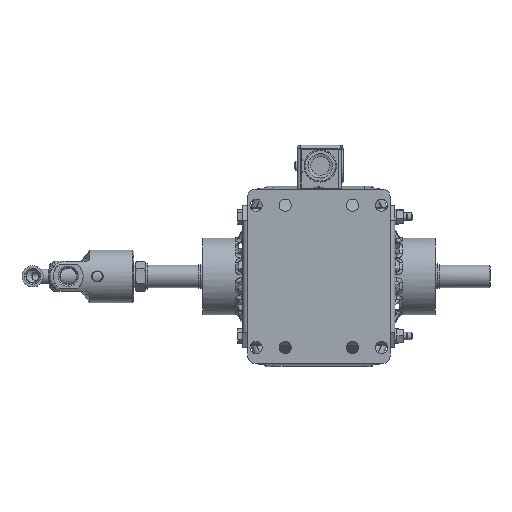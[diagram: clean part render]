
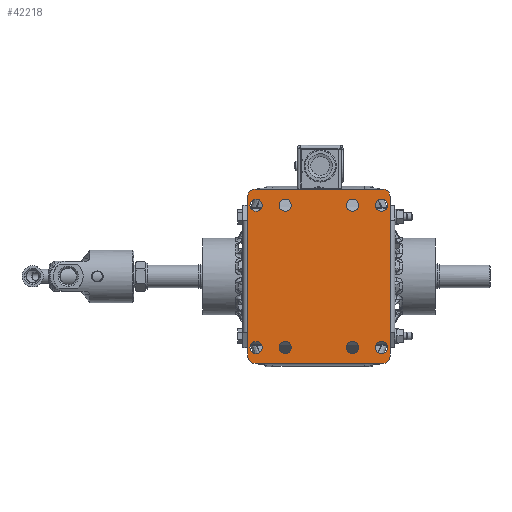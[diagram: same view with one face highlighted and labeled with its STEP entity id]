
A CAD part, left-side view. The second image highlights one B-rep face of the part: STEP entity #42218.
In plain terms, the highlighted planar face has unit normal (-1, 0, 0).
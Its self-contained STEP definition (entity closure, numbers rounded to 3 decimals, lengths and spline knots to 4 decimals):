
#1695=FACE_BOUND('',#6689,.T.);
#1696=FACE_BOUND('',#6690,.T.);
#1697=FACE_BOUND('',#6691,.T.);
#1698=FACE_BOUND('',#6692,.T.);
#1699=FACE_BOUND('',#6693,.T.);
#1700=FACE_BOUND('',#6694,.T.);
#1701=FACE_BOUND('',#6695,.T.);
#1702=FACE_BOUND('',#6696,.T.);
#2144=PLANE('',#45872);
#3834=FACE_OUTER_BOUND('',#6688,.T.);
#6688=EDGE_LOOP('',(#33102,#33103,#33104,#33105,#33106,#33107,#33108,#33109,
#33110,#33111,#33112,#33113));
#6689=EDGE_LOOP('',(#33114));
#6690=EDGE_LOOP('',(#33115));
#6691=EDGE_LOOP('',(#33116));
#6692=EDGE_LOOP('',(#33117));
#6693=EDGE_LOOP('',(#33118));
#6694=EDGE_LOOP('',(#33119));
#6695=EDGE_LOOP('',(#33120));
#6696=EDGE_LOOP('',(#33121));
#11334=CIRCLE('',#45834,0.2031);
#11336=CIRCLE('',#45837,0.2031);
#11338=CIRCLE('',#45840,0.2031);
#11340=CIRCLE('',#45843,0.2031);
#11342=CIRCLE('',#45846,0.2031);
#11344=CIRCLE('',#45849,0.2031);
#11346=CIRCLE('',#45852,0.2031);
#11348=CIRCLE('',#45855,0.2031);
#11361=CIRCLE('',#45873,0.25);
#11362=CIRCLE('',#45874,0.25);
#11363=CIRCLE('',#45875,0.25);
#11364=CIRCLE('',#45876,0.25);
#13859=LINE('',#93535,#15661);
#13860=LINE('',#93537,#15662);
#13861=LINE('',#93539,#15663);
#13862=LINE('',#93543,#15664);
#13863=LINE('',#93547,#15665);
#13864=LINE('',#93549,#15666);
#13865=LINE('',#93551,#15667);
#13866=LINE('',#93555,#15668);
#15661=VECTOR('',#53699,39.3701);
#15662=VECTOR('',#53700,39.3701);
#15663=VECTOR('',#53701,39.3701);
#15664=VECTOR('',#53704,39.3701);
#15665=VECTOR('',#53707,39.3701);
#15666=VECTOR('',#53708,39.3701);
#15667=VECTOR('',#53709,39.3701);
#15668=VECTOR('',#53712,39.3701);
#18327=VERTEX_POINT('',#93449);
#18329=VERTEX_POINT('',#93455);
#18331=VERTEX_POINT('',#93461);
#18333=VERTEX_POINT('',#93467);
#18335=VERTEX_POINT('',#93473);
#18337=VERTEX_POINT('',#93479);
#18339=VERTEX_POINT('',#93485);
#18341=VERTEX_POINT('',#93491);
#18355=VERTEX_POINT('',#93533);
#18356=VERTEX_POINT('',#93534);
#18357=VERTEX_POINT('',#93536);
#18358=VERTEX_POINT('',#93538);
#18359=VERTEX_POINT('',#93540);
#18360=VERTEX_POINT('',#93542);
#18361=VERTEX_POINT('',#93544);
#18362=VERTEX_POINT('',#93546);
#18363=VERTEX_POINT('',#93548);
#18364=VERTEX_POINT('',#93550);
#18365=VERTEX_POINT('',#93552);
#18366=VERTEX_POINT('',#93554);
#23468=EDGE_CURVE('',#18327,#18327,#11334,.T.);
#23471=EDGE_CURVE('',#18329,#18329,#11336,.T.);
#23474=EDGE_CURVE('',#18331,#18331,#11338,.T.);
#23477=EDGE_CURVE('',#18333,#18333,#11340,.T.);
#23480=EDGE_CURVE('',#18335,#18335,#11342,.T.);
#23483=EDGE_CURVE('',#18337,#18337,#11344,.T.);
#23486=EDGE_CURVE('',#18339,#18339,#11346,.T.);
#23489=EDGE_CURVE('',#18341,#18341,#11348,.T.);
#23512=EDGE_CURVE('',#18355,#18356,#13859,.T.);
#23513=EDGE_CURVE('',#18355,#18357,#13860,.T.);
#23514=EDGE_CURVE('',#18358,#18357,#13861,.T.);
#23515=EDGE_CURVE('',#18358,#18359,#11361,.T.);
#23516=EDGE_CURVE('',#18360,#18359,#13862,.T.);
#23517=EDGE_CURVE('',#18360,#18361,#11362,.T.);
#23518=EDGE_CURVE('',#18362,#18361,#13863,.T.);
#23519=EDGE_CURVE('',#18362,#18363,#13864,.T.);
#23520=EDGE_CURVE('',#18364,#18363,#13865,.T.);
#23521=EDGE_CURVE('',#18364,#18365,#11363,.T.);
#23522=EDGE_CURVE('',#18366,#18365,#13866,.T.);
#23523=EDGE_CURVE('',#18366,#18356,#11364,.T.);
#33102=ORIENTED_EDGE('',*,*,#23512,.F.);
#33103=ORIENTED_EDGE('',*,*,#23513,.T.);
#33104=ORIENTED_EDGE('',*,*,#23514,.F.);
#33105=ORIENTED_EDGE('',*,*,#23515,.T.);
#33106=ORIENTED_EDGE('',*,*,#23516,.F.);
#33107=ORIENTED_EDGE('',*,*,#23517,.T.);
#33108=ORIENTED_EDGE('',*,*,#23518,.F.);
#33109=ORIENTED_EDGE('',*,*,#23519,.T.);
#33110=ORIENTED_EDGE('',*,*,#23520,.F.);
#33111=ORIENTED_EDGE('',*,*,#23521,.T.);
#33112=ORIENTED_EDGE('',*,*,#23522,.F.);
#33113=ORIENTED_EDGE('',*,*,#23523,.T.);
#33114=ORIENTED_EDGE('',*,*,#23489,.T.);
#33115=ORIENTED_EDGE('',*,*,#23486,.T.);
#33116=ORIENTED_EDGE('',*,*,#23483,.T.);
#33117=ORIENTED_EDGE('',*,*,#23480,.T.);
#33118=ORIENTED_EDGE('',*,*,#23468,.T.);
#33119=ORIENTED_EDGE('',*,*,#23471,.T.);
#33120=ORIENTED_EDGE('',*,*,#23474,.T.);
#33121=ORIENTED_EDGE('',*,*,#23477,.T.);
#42218=ADVANCED_FACE('',(#3834,#1695,#1696,#1697,#1698,#1699,#1700,#1701,
#1702),#2144,.T.);
#45834=AXIS2_PLACEMENT_3D('',#93450,#53604,#53605);
#45837=AXIS2_PLACEMENT_3D('',#93456,#53611,#53612);
#45840=AXIS2_PLACEMENT_3D('',#93462,#53618,#53619);
#45843=AXIS2_PLACEMENT_3D('',#93468,#53625,#53626);
#45846=AXIS2_PLACEMENT_3D('',#93474,#53632,#53633);
#45849=AXIS2_PLACEMENT_3D('',#93480,#53639,#53640);
#45852=AXIS2_PLACEMENT_3D('',#93486,#53646,#53647);
#45855=AXIS2_PLACEMENT_3D('',#93492,#53653,#53654);
#45872=AXIS2_PLACEMENT_3D('',#93532,#53697,#53698);
#45873=AXIS2_PLACEMENT_3D('',#93541,#53702,#53703);
#45874=AXIS2_PLACEMENT_3D('',#93545,#53705,#53706);
#45875=AXIS2_PLACEMENT_3D('',#93553,#53710,#53711);
#45876=AXIS2_PLACEMENT_3D('',#93556,#53713,#53714);
#53604=DIRECTION('center_axis',(1.,0.,0.));
#53605=DIRECTION('ref_axis',(0.,-1.,0.));
#53611=DIRECTION('center_axis',(1.,0.,0.));
#53612=DIRECTION('ref_axis',(0.,-1.,0.));
#53618=DIRECTION('center_axis',(1.,0.,0.));
#53619=DIRECTION('ref_axis',(0.,-1.,0.));
#53625=DIRECTION('center_axis',(1.,0.,0.));
#53626=DIRECTION('ref_axis',(0.,-1.,0.));
#53632=DIRECTION('center_axis',(1.,0.,0.));
#53633=DIRECTION('ref_axis',(0.,-1.,0.));
#53639=DIRECTION('center_axis',(1.,0.,0.));
#53640=DIRECTION('ref_axis',(0.,-1.,0.));
#53646=DIRECTION('center_axis',(1.,0.,0.));
#53647=DIRECTION('ref_axis',(0.,-1.,0.));
#53653=DIRECTION('center_axis',(1.,0.,0.));
#53654=DIRECTION('ref_axis',(0.,-1.,0.));
#53697=DIRECTION('center_axis',(-1.,0.,0.));
#53698=DIRECTION('ref_axis',(0.,1.,0.));
#53699=DIRECTION('',(0.,0.,1.));
#53700=DIRECTION('',(0.,0.,-1.));
#53701=DIRECTION('',(0.,0.,1.));
#53702=DIRECTION('center_axis',(-1.,0.,0.));
#53703=DIRECTION('ref_axis',(0.,1.,0.));
#53704=DIRECTION('',(0.,1.,0.));
#53705=DIRECTION('center_axis',(-1.,0.,0.));
#53706=DIRECTION('ref_axis',(0.,1.,0.));
#53707=DIRECTION('',(0.,0.,-1.));
#53708=DIRECTION('',(0.,0.,1.));
#53709=DIRECTION('',(0.,0.,-1.));
#53710=DIRECTION('center_axis',(-1.,0.,0.));
#53711=DIRECTION('ref_axis',(0.,1.,0.));
#53712=DIRECTION('',(0.,-1.,0.));
#53713=DIRECTION('center_axis',(-1.,0.,0.));
#53714=DIRECTION('ref_axis',(0.,1.,0.));
#93449=CARTESIAN_POINT('',(-3.289,2.2732,2.3421));
#93450=CARTESIAN_POINT('Origin',(-3.289,2.0701,2.3421));
#93455=CARTESIAN_POINT('',(-3.289,1.3044,2.3421));
#93456=CARTESIAN_POINT('Origin',(-3.289,1.1013,2.3421));
#93461=CARTESIAN_POINT('',(-3.289,-0.9456,2.3421));
#93462=CARTESIAN_POINT('Origin',(-3.289,-1.1487,2.3421));
#93467=CARTESIAN_POINT('',(-3.289,-1.9143,2.3421));
#93468=CARTESIAN_POINT('Origin',(-3.289,-2.1174,2.3421));
#93473=CARTESIAN_POINT('',(-3.289,-1.9143,-2.4079));
#93474=CARTESIAN_POINT('Origin',(-3.289,-2.1174,-2.4079));
#93479=CARTESIAN_POINT('',(-3.289,-0.9456,-2.4079));
#93480=CARTESIAN_POINT('Origin',(-3.289,-1.1487,-2.4079));
#93485=CARTESIAN_POINT('',(-3.289,1.3044,-2.4079));
#93486=CARTESIAN_POINT('Origin',(-3.289,1.1013,-2.4079));
#93491=CARTESIAN_POINT('',(-3.289,2.2732,-2.4079));
#93492=CARTESIAN_POINT('Origin',(-3.289,2.0701,-2.4079));
#93532=CARTESIAN_POINT('Origin',(-3.289,-0.0237,-0.0329));
#93533=CARTESIAN_POINT('',(-3.289,2.3513,1.8421));
#93534=CARTESIAN_POINT('',(-3.289,2.3513,2.6233));
#93535=CARTESIAN_POINT('',(-3.289,2.3513,2.8733));
#93536=CARTESIAN_POINT('',(-3.289,2.3513,-1.9079));
#93537=CARTESIAN_POINT('',(-3.289,2.3513,-0.0329));
#93538=CARTESIAN_POINT('',(-3.289,2.3513,-2.6892));
#93539=CARTESIAN_POINT('',(-3.289,2.3513,2.8733));
#93540=CARTESIAN_POINT('',(-3.289,2.1013,-2.9392));
#93541=CARTESIAN_POINT('Origin',(-3.289,2.1013,-2.6892));
#93542=CARTESIAN_POINT('',(-3.289,-2.1487,-2.9392));
#93543=CARTESIAN_POINT('',(-3.289,-2.3987,-2.9392));
#93544=CARTESIAN_POINT('',(-3.289,-2.3987,-2.6892));
#93545=CARTESIAN_POINT('Origin',(-3.289,-2.1487,-2.6892));
#93546=CARTESIAN_POINT('',(-3.289,-2.3987,-1.9079));
#93547=CARTESIAN_POINT('',(-3.289,-2.3987,2.8733));
#93548=CARTESIAN_POINT('',(-3.289,-2.3987,1.8421));
#93549=CARTESIAN_POINT('',(-3.289,-2.3987,-0.0329));
#93550=CARTESIAN_POINT('',(-3.289,-2.3987,2.6233));
#93551=CARTESIAN_POINT('',(-3.289,-2.3987,2.8733));
#93552=CARTESIAN_POINT('',(-3.289,-2.1487,2.8733));
#93553=CARTESIAN_POINT('Origin',(-3.289,-2.1487,2.6233));
#93554=CARTESIAN_POINT('',(-3.289,2.1013,2.8733));
#93555=CARTESIAN_POINT('',(-3.289,-2.3987,2.8733));
#93556=CARTESIAN_POINT('Origin',(-3.289,2.1013,2.6233));
